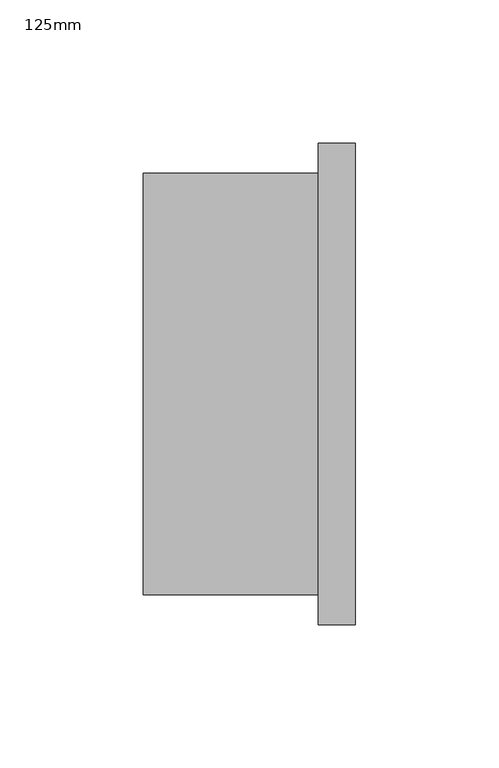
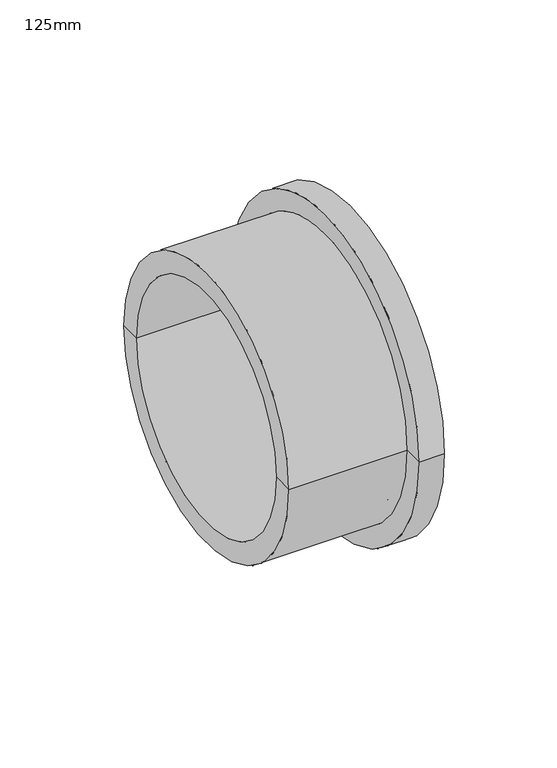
"""IFC4 building model written with IfcOpenShell, lengths in millimetres: pipe fitting geometry, Durapipe_PipeFitting_PVC_StubFlange : 125mm."""

import ifcopenshell
import ifcopenshell.guid

model = None  # the IFC model being written
_history = None  # IfcOwnerHistory: only IFC2X3 demands one
_inside = {}  # id of a spatial element -> (the spatial element, [elements in it])
_under = {}  # id of a project, library or spatial element -> (it, [spatial elements below it])
_declared = {}  # id of a project -> (the project, [libraries it declares])
_typed = {}  # id of a type object -> (the type object, [elements of that type])
_made_of = {}  # id of a material, layer set ... -> (it, [elements and type objects made of it])


def new_model(schema):
    """Start an empty IFC model of exactly this schema.

    Asked for "IFC4X3", IfcOpenShell would pick the latest addendum, in which some entities
    have other attributes; the version numbers below select the first issue.
    IFC2X3 requires an IfcOwnerHistory on every rooted entity: one is made here for all.
    """
    global model, _history
    if schema == "IFC4X3":
        model = ifcopenshell.file(schema_version=(4, 3, 0, 0))
    else:
        model = ifcopenshell.file(schema=schema)
    _inside.clear()
    _under.clear()
    _declared.clear()
    _typed.clear()
    _made_of.clear()
    _history = None
    if model.schema == "IFC2X3":
        org = make("IfcOrganization", Name="unknown")
        user = make(
            "IfcPersonAndOrganization",
            ThePerson=make("IfcPerson", FamilyName="unknown"),
            TheOrganization=org,
        )
        app = make(
            "IfcApplication",
            ApplicationDeveloper=org,
            Version="unknown",
            ApplicationFullName="unknown",
            ApplicationIdentifier="unknown",
        )
        _history = make(
            "IfcOwnerHistory",
            OwningUser=user,
            OwningApplication=app,
            ChangeAction="ADDED",
            CreationDate=0,
        )
    return model


def make(cls, **values):
    """One entity of the class cls with the attributes given. An attribute that is None is left unset."""
    return model.create_entity(
        cls, **{name: value for name, value in values.items() if value is not None}
    )


def rooted(cls, **values):
    """An entity with a GlobalId (a new one), such as an element, a storey or a relation."""
    return make(cls, GlobalId=ifcopenshell.guid.new(), OwnerHistory=_history, **values)


def si_unit(unit_type, name, prefix=None):
    """IfcSIUnit, for example si_unit("LENGTHUNIT", "METRE", prefix="MILLI")."""
    return make("IfcSIUnit", UnitType=unit_type, Prefix=prefix, Name=name)


def assignment(units):
    """IfcUnitAssignment: the units of a project."""
    return None if units is None else make("IfcUnitAssignment", Units=units)


def point(xyz):
    """IfcCartesianPoint."""
    return None if xyz is None else make("IfcCartesianPoint", Coordinates=xyz)


def direction(xyz):
    """IfcDirection."""
    return None if xyz is None else make("IfcDirection", DirectionRatios=xyz)


def frame(location, z_axis=None, x_axis=None):
    """IfcAxis2Placement3D, a coordinate frame: its origin and axes. An axis left out is left unset."""
    return make(
        "IfcAxis2Placement3D",
        Location=point(location),
        Axis=direction(z_axis),
        RefDirection=direction(x_axis),
    )


def origin():
    """The frame at (0, 0, 0) with its axes left unset."""
    return frame((0.0, 0.0, 0.0))


def place(relative_to, where):
    """IfcLocalPlacement: puts the frame where relative to a parent placement (None: the world)."""
    return make(
        "IfcLocalPlacement", PlacementRelTo=relative_to, RelativePlacement=where
    )


def context(
    kind, dimensions, precision=None, world=None, true_north=None, identifier=None
):
    """IfcGeometricRepresentationContext, for example the 3D "Model" context."""
    return make(
        "IfcGeometricRepresentationContext",
        ContextIdentifier=identifier,
        ContextType=kind,
        CoordinateSpaceDimension=dimensions,
        Precision=precision,
        WorldCoordinateSystem=world,
        TrueNorth=true_north,
    )


def project(units=None, contexts=None):
    """IfcProject with its units and contexts."""
    return rooted(
        "IfcProject",
        Name="project",
        RepresentationContexts=contexts,
        UnitsInContext=assignment(units),
    )


def spatial(cls, under=None, at=None, **own):
    """A site, building, storey or space (cls), placed at a placement, below another one or the project."""
    s = rooted(cls, ObjectPlacement=at, **own)
    if under is not None:
        _under.setdefault(under.id(), (under, []))[1].append(s)
    return s


def polyline(points):
    """IfcPolyline through the points."""
    return make("IfcPolyline", Points=[point(p) for p in points])


def circle_curve(where, radius):
    """IfcCircle in the frame where."""
    return make("IfcCircle", Position=where, Radius=radius)


def shape(context_of_items, identifier, shape_type, items):
    """IfcShapeRepresentation: the items that make up one representation, for example the "Body"."""
    return make(
        "IfcShapeRepresentation",
        ContextOfItems=context_of_items,
        RepresentationIdentifier=identifier,
        RepresentationType=shape_type,
        Items=items,
    )


def source(mapping_origin, context_of_items, identifier, shape_type, items):
    """IfcRepresentationMap: a shape defined once, which mapped items show again and again."""
    return make(
        "IfcRepresentationMap",
        MappingOrigin=mapping_origin,
        MappedRepresentation=shape(context_of_items, identifier, shape_type, items),
    )


def transform(
    local_origin,
    x_axis=None,
    y_axis=None,
    z_axis=None,
    scale=None,
    scale2=None,
    scale3=None,
    uniform=True,
):
    """IfcCartesianTransformationOperator3D, or its non-uniform kind. x_axis, y_axis, z_axis: its Axis1, 2, 3."""
    if uniform:
        return make(
            "IfcCartesianTransformationOperator3D",
            Axis1=direction(x_axis),
            Axis2=direction(y_axis),
            LocalOrigin=point(local_origin),
            Scale=scale,
            Axis3=direction(z_axis),
        )
    return make(
        "IfcCartesianTransformationOperator3DnonUniform",
        Axis1=direction(x_axis),
        Axis2=direction(y_axis),
        LocalOrigin=point(local_origin),
        Scale=scale,
        Axis3=direction(z_axis),
        Scale2=scale2,
        Scale3=scale3,
    )


def mapped(mapping_source, mapping_target):
    """IfcMappedItem: shows the shape of a source again, moved by a transform."""
    return make(
        "IfcMappedItem", MappingSource=mapping_source, MappingTarget=mapping_target
    )


def made_of(thing, what):
    """Note that an element or type object is made of a material, layer set ...; save() writes the relation."""
    if what is not None:
        _made_of.setdefault(what.id(), (what, []))[1].append(thing)
    return thing


def element(
    cls,
    number,
    at=None,
    inside=None,
    cuts=None,
    type_object=None,
    material=None,
    context=None,
    identifier="Body",
    shape_type=None,
    held_by="IfcProductDefinitionShape",
    body=None,
    shapes=None,
    **own,
):
    """One element of the class cls, such as IfcWall. Its Tag is "e" and its number.

    at: its placement. inside: the storey or other place that contains it. cuts: it is an
    opening in that element (IfcRelVoidsElement). A single representation is given by context,
    identifier, shape_type and body (its items); several are given by shapes. held_by: the class
    of the entity that holds the representations. save() writes the other relations.
    """
    e = rooted(cls, Tag="e%d" % number, ObjectPlacement=at, **own)
    if body is not None:
        shapes = [shape(context, identifier, shape_type, body)]
    if shapes is not None:
        e.Representation = make(held_by, Representations=shapes)
    if inside is not None:
        _inside.setdefault(inside.id(), (inside, []))[1].append(e)
    if cuts is not None:
        rooted(
            "IfcRelVoidsElement", RelatingBuildingElement=cuts, RelatedOpeningElement=e
        )
    if type_object is not None:
        _typed.setdefault(type_object.id(), (type_object, []))[1].append(e)
    return made_of(e, material)


def aggregate(whole, parts):
    """IfcRelAggregates: a whole, such as a stair, and the parts it consists of."""
    return rooted("IfcRelAggregates", RelatingObject=whole, RelatedObjects=parts)


def save(model, path):
    """Write the relations noted so far, then the file.

    IfcRelAggregates (storeys below a building ...), IfcRelContainedInSpatialStructure (elements
    in a storey), IfcRelDefinesByType, IfcRelAssociatesMaterial and IfcRelDeclares: one each for
    every whole, place, type object, material and project.
    """
    for whole, parts in _under.values():
        aggregate(whole, parts)
    for where, things in _inside.values():
        rooted(
            "IfcRelContainedInSpatialStructure",
            RelatedElements=things,
            RelatingStructure=where,
        )
    for kind, things in _typed.values():
        rooted("IfcRelDefinesByType", RelatedObjects=things, RelatingType=kind)
    for what, things in _made_of.values():
        rooted("IfcRelAssociatesMaterial", RelatedObjects=things, RelatingMaterial=what)
    for by, libraries in _declared.values():
        rooted("IfcRelDeclares", RelatingContext=by, RelatedDefinitions=libraries)
    model.write(path)


def plane_surface(at):
    """IfcPlane: the flat surface through the origin of the frame at, square to its z axis."""
    return make("IfcPlane", Position=at)


def cylinder_surface(at, radius):
    """IfcCylindricalSurface: all points at the distance radius from the z axis of the frame at."""
    return make("IfcCylindricalSurface", Position=at, Radius=radius)


def revolved_surface(curve, axis_point, axis_direction):
    """IfcSurfaceOfRevolution: the curve turned about the line through axis_point along axis_direction."""
    return make(
        "IfcSurfaceOfRevolution",
        SweptCurve=make("IfcArbitraryOpenProfileDef", ProfileType="CURVE", Curve=curve),
        AxisPosition=make("IfcAxis1Placement", Location=point(axis_point), Axis=direction(axis_direction)),
    )


def advanced_brep(points, edges, surfaces, faces):
    """IfcAdvancedBrep: a solid bounded by faces that lie on surfaces and meet in shared edges.

    An edge is (start, end): straight between two places in points (the first is 0);
    or (start, end, curve); or (start, end, curve, False) where it runs against its curve.
    A face is (place in surfaces, loops), or (place, loops, False) where it looks against
    its surface's normal. A loop lists edges by number (the first is 1), with a minus sign
    where the edge is run from its end to its start. The first loop is the outer one.
    """
    corners = [point(p) for p in points]
    vertices = [make("IfcVertexPoint", VertexGeometry=c) for c in corners]
    made = []
    for start, end, *more in edges:
        made.append(
            make(
                "IfcEdgeCurve",
                EdgeStart=vertices[start],
                EdgeEnd=vertices[end],
                EdgeGeometry=more[0] if more else make("IfcPolyline", Points=[corners[start], corners[end]]),
                SameSense=more[1] if len(more) > 1 else True,
            )
        )
    hull = []
    for where, loops, *sense in faces:
        bounds = []
        for j, loop in enumerate(loops):
            ring = [make("IfcOrientedEdge", EdgeElement=made[abs(k) - 1], Orientation=k > 0) for k in loop]
            bounds.append(
                make(
                    "IfcFaceOuterBound" if j == 0 else "IfcFaceBound",
                    Bound=make("IfcEdgeLoop", EdgeList=ring),
                    Orientation=True,
                )
            )
        hull.append(make("IfcAdvancedFace", Bounds=bounds, FaceSurface=surfaces[where], SameSense=sense[0] if sense else True))
    return make("IfcAdvancedBrep", Outer=make("IfcClosedShell", CfsFaces=hull))


def pipe_fitting_125mm_99c0a4ed(model_context):
    return source(origin(), model_context, "Body", "AdvancedBrep", [
        advanced_brep(
        [(37.0, -84.0, 0.0), (37.0, 84.0, 0.0), (37.0, 67.5, 0.0), (37.0, -67.5, 0.0), (37.0, 55.0, 0.0), (37.0, -55.0, 0.0), (37.0, -63.7720779, 0.0), (37.0, 63.7720779, 0.0), (24.0, -84.0, 0.0), (24.0, 84.0, 0.0), (24.0, -73.5, 0.0), (24.0, 73.5, 0.0), (-37.0, -73.5, 0.0), (-37.0, 73.5, 0.0), (-37.0, -62.5, 0.0), (-37.0, 62.5, 0.0), (32.0, 55.0, 0.0), (32.0, -55.0, 0.0), (32.0, -62.5, 0.0), (32.0, 62.5, 0.0), (37.0, 65.0147186, 0.0), (35.5, 64.3933983, 0.0), (35.5, -64.3933983, 0.0), (37.0, -65.0147186, 0.0), (35.5, -65.636039, 0.0), (35.5, 65.636039, 0.0), (37.0, -66.2573593, 0.0), (37.0, 66.2573593, 0.0), (35.5, -66.8786797, 0.0), (35.5, 66.8786797, 0.0)],
        [
            (0, 1, circle_curve(frame((37.0, 0.0, 0.0), z_axis=(1.0, 0.0, 0.0), x_axis=(0.0, 1.0, 0.0)), 84.0)),
            (1, 2),
            (2, 3, circle_curve(frame((37.0, 0.0, 0.0), z_axis=(-1.0, 0.0, 0.0), x_axis=(0.0, -1.0, 0.0)), 67.5)),
            (3, 0),
            (4, 5, circle_curve(frame((37.0, 0.0, 0.0), z_axis=(-1.0, 0.0, 0.0), x_axis=(0.0, 1.0, 0.0)), 55.0)),
            (5, 6),
            (6, 7, circle_curve(frame((37.0, 0.0, 0.0), z_axis=(1.0, 0.0, 0.0), x_axis=(0.0, -1.0, 0.0)), 63.7720779)),
            (7, 4),
            (1, 0, circle_curve(frame((37.0, 0.0, 0.0), z_axis=(1.0, 0.0, 0.0), x_axis=(0.0, 1.0, 0.0)), 84.0)),
            (3, 2, circle_curve(frame((37.0, 0.0, 0.0), z_axis=(-1.0, 0.0, 0.0), x_axis=(0.0, 1.0, 0.0)), 67.5)),
            (5, 4, circle_curve(frame((37.0, 0.0, 0.0), z_axis=(-1.0, 0.0, 0.0), x_axis=(0.0, 1.0, 0.0)), 55.0)),
            (7, 6, circle_curve(frame((37.0, 0.0, 0.0), z_axis=(1.0, 0.0, 0.0), x_axis=(0.0, 1.0, 0.0)), 63.7720779)),
            (0, 8),
            (8, 9, circle_curve(frame((24.0, 0.0, 0.0), z_axis=(1.0, 0.0, 0.0), x_axis=(0.0, 1.0, 0.0)), 84.0)),
            (9, 1),
            (9, 8, circle_curve(frame((24.0, 0.0, 0.0), z_axis=(1.0, 0.0, 0.0), x_axis=(0.0, 1.0, 0.0)), 84.0)),
            (8, 10),
            (10, 11, circle_curve(frame((24.0, 0.0, 0.0), z_axis=(1.0, 0.0, 0.0), x_axis=(0.0, 1.0, 0.0)), 73.5)),
            (11, 9),
            (11, 10, circle_curve(frame((24.0, 0.0, 0.0), z_axis=(1.0, 0.0, 0.0), x_axis=(0.0, 1.0, 0.0)), 73.5)),
            (10, 12),
            (12, 13, circle_curve(frame((-37.0, 0.0, 0.0), z_axis=(1.0, 0.0, 0.0), x_axis=(0.0, 1.0, 0.0)), 73.5)),
            (13, 11),
            (13, 12, circle_curve(frame((-37.0, 0.0, 0.0), z_axis=(1.0, 0.0, 0.0), x_axis=(0.0, 1.0, 0.0)), 73.5)),
            (12, 14),
            (14, 15, circle_curve(frame((-37.0, 0.0, 0.0), z_axis=(1.0, 0.0, 0.0), x_axis=(0.0, 1.0, 0.0)), 62.5)),
            (15, 13),
            (15, 14, circle_curve(frame((-37.0, 0.0, 0.0), z_axis=(1.0, 0.0, 0.0), x_axis=(0.0, 1.0, 0.0)), 62.5)),
            (4, 16),
            (16, 17, circle_curve(frame((32.0, 0.0, 0.0), z_axis=(-1.0, 0.0, 0.0), x_axis=(0.0, 1.0, 0.0)), 55.0)),
            (17, 5),
            (17, 16, circle_curve(frame((32.0, 0.0, 0.0), z_axis=(-1.0, 0.0, 0.0), x_axis=(0.0, 1.0, 0.0)), 55.0)),
            (14, 18),
            (18, 19, circle_curve(frame((32.0, 0.0, 0.0), z_axis=(1.0, 0.0, 0.0), x_axis=(0.0, 1.0, 0.0)), 62.5)),
            (19, 15),
            (19, 18, circle_curve(frame((32.0, 0.0, 0.0), z_axis=(1.0, 0.0, 0.0), x_axis=(0.0, 1.0, 0.0)), 62.5)),
            (18, 17),
            (16, 19),
            (20, 21),
            (21, 22, circle_curve(frame((35.5, 0.0, 0.0), z_axis=(-1.0, 0.0, 0.0), x_axis=(0.0, -1.0, 0.0)), 64.3933983)),
            (22, 23),
            (23, 20, circle_curve(frame((37.0, 0.0, 0.0), z_axis=(1.0, 0.0, 0.0), x_axis=(0.0, -1.0, 0.0)), 65.0147186)),
            (23, 24),
            (24, 25, circle_curve(frame((35.5, 0.0, 0.0), z_axis=(1.0, 0.0, 0.0), x_axis=(0.0, -1.0, 0.0)), 65.636039)),
            (25, 20),
            (24, 26),
            (26, 27, circle_curve(frame((37.0, 0.0, 0.0), z_axis=(1.0, 0.0, 0.0), x_axis=(0.0, -1.0, 0.0)), 66.2573593)),
            (27, 25),
            (26, 28),
            (28, 29, circle_curve(frame((35.5, 0.0, 0.0), z_axis=(1.0, 0.0, 0.0), x_axis=(0.0, -1.0, 0.0)), 66.8786797)),
            (29, 27),
            (28, 3),
            (2, 29),
            (21, 7),
            (6, 22),
            (20, 23, circle_curve(frame((37.0, 0.0, 0.0), z_axis=(1.0, 0.0, 0.0), x_axis=(0.0, 1.0, 0.0)), 65.0147186)),
            (22, 21, circle_curve(frame((35.5, 0.0, 0.0), z_axis=(-1.0, 0.0, 0.0), x_axis=(0.0, 1.0, 0.0)), 64.3933983)),
            (25, 24, circle_curve(frame((35.5, 0.0, 0.0), z_axis=(1.0, 0.0, 0.0), x_axis=(0.0, 1.0, 0.0)), 65.636039)),
            (27, 26, circle_curve(frame((37.0, 0.0, 0.0), z_axis=(1.0, 0.0, 0.0), x_axis=(0.0, 1.0, 0.0)), 66.2573593)),
            (29, 28, circle_curve(frame((35.5, 0.0, 0.0), z_axis=(1.0, 0.0, 0.0), x_axis=(0.0, 1.0, 0.0)), 66.8786797)),
        ],
        [
            plane_surface(frame((37.0, 0.0, 0.0), z_axis=(1.0, 0.0, 0.0), x_axis=(0.0, 1.0, 0.0))),
            cylinder_surface(frame((40.1035546, 0.0, 0.0), z_axis=(-1.0, 0.0, 0.0), x_axis=(0.0, 1.0, 0.0)), 84.0),
            plane_surface(frame((24.0, 0.0, 0.0), z_axis=(-1.0, 0.0, 0.0), x_axis=(0.0, 1.0, 0.0))),
            cylinder_surface(frame((40.1035546, 0.0, 0.0), z_axis=(-1.0, 0.0, 0.0), x_axis=(0.0, 1.0, 0.0)), 73.5),
            plane_surface(frame((-37.0, 0.0, 0.0), z_axis=(-1.0, 0.0, 0.0), x_axis=(0.0, 1.0, 0.0))),
            revolved_surface(polyline([(32.0, 55.0, 0.0), (37.0, 55.0, 0.0)]), (40.1035546, 0.0, 0.0), (-1.0, 0.0, 0.0)),
            revolved_surface(polyline([(-37.0, 62.5, 0.0), (32.0, 62.5, 0.0)]), (-38.8250714, 0.0, 0.0), (-1.0, 0.0, 0.0)),
            plane_surface(frame((32.0, 0.0, 0.0), z_axis=(-1.0, 0.0, 0.0), x_axis=(0.0, 1.0, 0.0))),
            revolved_surface(polyline([(37.0, -65.0147186, 0.0), (35.5, -64.3933983, 0.0)]), (37.0, 0.0, 0.0), (1.0, 0.0, 0.0)),
            revolved_surface(polyline([(35.5, -65.636039, 0.0), (37.0, -65.0147186, 0.0)]), (37.0, 0.0, 0.0), (1.0, 0.0, 0.0)),
            revolved_surface(polyline([(37.0, -66.2573593, 0.0), (35.5, -65.636039, 0.0)]), (37.0, 0.0, 0.0), (1.0, 0.0, 0.0)),
            revolved_surface(polyline([(35.5, -66.8786797, 0.0), (37.0, -66.2573593, 0.0)]), (37.0, 0.0, 0.0), (1.0, 0.0, 0.0)),
            revolved_surface(polyline([(37.0, -67.5, 0.0), (35.5, -66.8786797, 0.0)]), (37.0, 0.0, 0.0), (1.0, 0.0, 0.0)),
            revolved_surface(polyline([(35.5, -64.3933983, 0.0), (37.0, -63.7720779, 0.0)]), (37.0, 0.0, 0.0), (1.0, 0.0, 0.0)),
            revolved_surface(polyline([(37.0, 65.0147186, 0.0), (35.5, 64.3933983, 0.0)]), (37.0, 0.0, 0.0), (1.0, 0.0, 0.0)),
            revolved_surface(polyline([(35.5, 65.636039, 0.0), (37.0, 65.0147186, 0.0)]), (37.0, 0.0, 0.0), (1.0, 0.0, 0.0)),
            revolved_surface(polyline([(37.0, 66.2573593, 0.0), (35.5, 65.636039, 0.0)]), (37.0, 0.0, 0.0), (1.0, 0.0, 0.0)),
            revolved_surface(polyline([(35.5, 66.8786797, 0.0), (37.0, 66.2573593, 0.0)]), (37.0, 0.0, 0.0), (1.0, 0.0, 0.0)),
            revolved_surface(polyline([(37.0, 67.5, 0.0), (35.5, 66.8786797, 0.0)]), (37.0, 0.0, 0.0), (1.0, 0.0, 0.0)),
            revolved_surface(polyline([(35.5, 64.3933983, 0.0), (37.0, 63.7720779, 0.0)]), (37.0, 0.0, 0.0), (1.0, 0.0, 0.0)),
        ],
        [
            (0, [[1, 2, 3, 4]]),
            (0, [[5, 6, 7, 8]]),
            (0, [[9, -4, 10, -2]]),
            (0, [[11, -8, 12, -6]]),
            (1, [[-1, 13, 14, 15]]),
            (1, [[-9, -15, 16, -13]]),
            (2, [[-14, 17, 18, 19]]),
            (2, [[-16, -19, 20, -17]]),
            (3, [[-18, 21, 22, 23]]),
            (3, [[-20, -23, 24, -21]]),
            (4, [[-22, 25, 26, 27]]),
            (4, [[-24, -27, 28, -25]]),
            (5, [[-5, 29, 30, 31]]),
            (5, [[-11, -31, 32, -29]]),
            (6, [[33, 34, 35, -26]]),
            (6, [[-33, -28, -35, 36]]),
            (7, [[-34, 37, -30, 38]]),
            (7, [[-36, -38, -32, -37]]),
            (8, [[39, 40, 41, 42]]),
            (9, [[-42, 43, 44, 45]]),
            (10, [[-44, 46, 47, 48]]),
            (11, [[-47, 49, 50, 51]]),
            (12, [[-50, 52, -3, 53]]),
            (13, [[-40, 54, -7, 55]]),
            (14, [[-39, 56, -41, 57]]),
            (15, [[-45, 58, -43, -56]]),
            (16, [[-48, 59, -46, -58]]),
            (17, [[-51, 60, -49, -59]]),
            (18, [[-53, -10, -52, -60]]),
            (19, [[-54, -57, -55, -12]]),
        ],
    ),
    ])


if __name__ == "__main__":
    model = new_model("IFC4")
    model_context = context("Model", 3, world=origin())
    ifc_project = project(units=[si_unit("LENGTHUNIT", "METRE", prefix="MILLI")], contexts=[model_context])
    site = spatial("IfcSite", under=ifc_project)
    building = spatial("IfcBuilding", under=site)
    placement = place(None, origin())
    pipe_fitting_125mm_shape = pipe_fitting_125mm_99c0a4ed(model_context)
    element("IfcPipeFitting", 1, ObjectType="Durapipe_PipeFitting_PVC_StubFlange : 125mm", at=placement, inside=building, context=model_context, shape_type="MappedRepresentation", body=[
        mapped(pipe_fitting_125mm_shape, transform((0.0, 0.0, 0.0), x_axis=(1.0, 0.0, 0.0), y_axis=(0.0, 1.0, 0.0), z_axis=(0.0, 0.0, 1.0))),
    ])
    save(model, "model.ifc")
